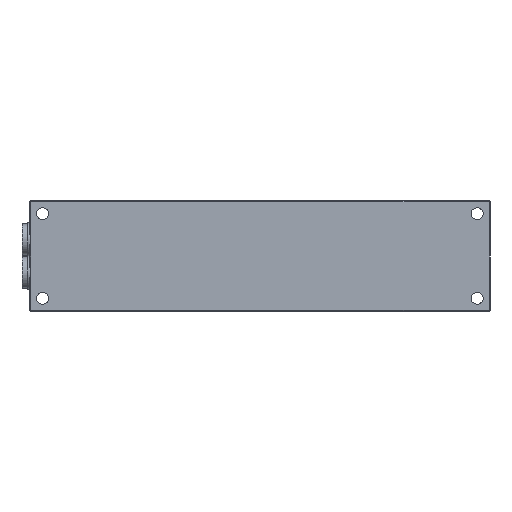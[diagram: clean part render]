
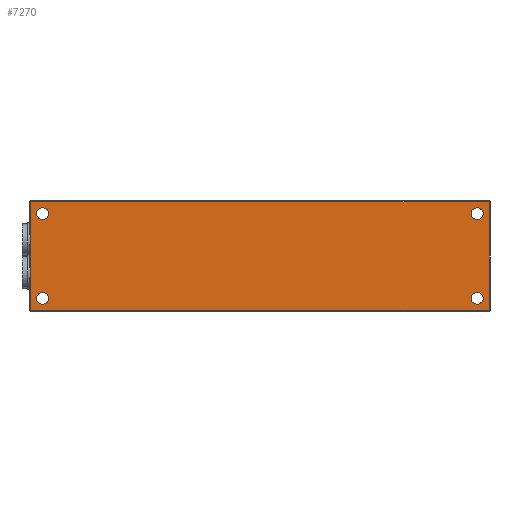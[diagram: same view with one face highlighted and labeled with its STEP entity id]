
A CAD part, front view. The second image highlights one B-rep face of the part: STEP entity #7270.
In plain terms, the highlighted planar face has unit normal (0, -1, 0).
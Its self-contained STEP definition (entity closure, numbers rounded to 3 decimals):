
#125 = CIRCLE ( 'NONE', #13356, 3.25 ) ;
#650 = DIRECTION ( 'NONE',  ( 0., 1., 0. ) ) ;
#804 = DIRECTION ( 'NONE',  ( 0., 1., 0. ) ) ;
#965 = CIRCLE ( 'NONE', #4209, 3.25 ) ;
#974 = CARTESIAN_POINT ( 'NONE',  ( 118., -19., -26.25 ) ) ;
#1879 = DIRECTION ( 'NONE',  ( 0., -1., 0. ) ) ;
#1933 = CIRCLE ( 'NONE', #13622, 3.25 ) ;
#2000 = AXIS2_PLACEMENT_3D ( 'NONE', #9654, #21576, #11353 ) ;
#2174 = EDGE_CURVE ( 'NONE', #3877, #6754, #14236, .T. ) ;
#2457 = LINE ( 'NONE', #5591, #19790 ) ;
#2520 = DIRECTION ( 'NONE',  ( 1., 0., 0. ) ) ;
#2805 = VECTOR ( 'NONE', #13991, 1000. ) ;
#2870 = CIRCLE ( 'NONE', #12645, 3.25 ) ;
#3214 = CARTESIAN_POINT ( 'NONE',  ( 118., -19., 23. ) ) ;
#3272 = FACE_OUTER_BOUND ( 'NONE', #15319, .T. ) ;
#3759 = CARTESIAN_POINT ( 'NONE',  ( -124.5, -19., 29.5 ) ) ;
#3877 = VERTEX_POINT ( 'NONE', #21543 ) ;
#4209 = AXIS2_PLACEMENT_3D ( 'NONE', #3214, #14959, #4785 ) ;
#4234 = VECTOR ( 'NONE', #19734, 1000. ) ;
#4569 = CARTESIAN_POINT ( 'NONE',  ( -118., -19., 19.75 ) ) ;
#4578 = EDGE_CURVE ( 'NONE', #11966, #16246, #965, .T. ) ;
#4785 = DIRECTION ( 'NONE',  ( 0., 0., 1. ) ) ;
#4819 = AXIS2_PLACEMENT_3D ( 'NONE', #11778, #1879, #13492 ) ;
#4821 = VERTEX_POINT ( 'NONE', #21072 ) ;
#4898 = EDGE_CURVE ( 'NONE', #4821, #19384, #7787, .T. ) ;
#5179 = EDGE_CURVE ( 'NONE', #7315, #14709, #2457, .T. ) ;
#5416 = CARTESIAN_POINT ( 'NONE',  ( 124.5, -19., -29.5 ) ) ;
#5490 = CARTESIAN_POINT ( 'NONE',  ( 118., -19., -23. ) ) ;
#5563 = CARTESIAN_POINT ( 'NONE',  ( -125., -19., 29.5 ) ) ;
#5591 = CARTESIAN_POINT ( 'NONE',  ( 125., -19., -29.5 ) ) ;
#5719 = CARTESIAN_POINT ( 'NONE',  ( 118., -19., 19.75 ) ) ;
#5921 = DIRECTION ( 'NONE',  ( 0., 0., -1. ) ) ;
#6041 = AXIS2_PLACEMENT_3D ( 'NONE', #8271, #10139, #10093 ) ;
#6269 = LINE ( 'NONE', #16153, #19360 ) ;
#6308 = CARTESIAN_POINT ( 'NONE',  ( -118., -19., -23. ) ) ;
#6754 = VERTEX_POINT ( 'NONE', #4569 ) ;
#7200 = DIRECTION ( 'NONE',  ( 0., 0., 1. ) ) ;
#7270 = ADVANCED_FACE ( 'NONE', ( #9774, #12711, #21248, #7621, #3272 ), #20209, .T. ) ;
#7315 = VERTEX_POINT ( 'NONE', #10296 ) ;
#7621 = FACE_BOUND ( 'NONE', #9495, .T. ) ;
#7783 = CARTESIAN_POINT ( 'NONE',  ( 124.5, -19., -30. ) ) ;
#7787 = CIRCLE ( 'NONE', #2000, 3.25 ) ;
#7995 = EDGE_LOOP ( 'NONE', ( #18643, #18900 ) ) ;
#8025 = DIRECTION ( 'NONE',  ( 0., 0., 1. ) ) ;
#8138 = LINE ( 'NONE', #7783, #4234 ) ;
#8271 = CARTESIAN_POINT ( 'NONE',  ( -118., -19., 23. ) ) ;
#9495 = EDGE_LOOP ( 'NONE', ( #19358, #19447 ) ) ;
#9564 = CARTESIAN_POINT ( 'NONE',  ( -118., -19., 23. ) ) ;
#9654 = CARTESIAN_POINT ( 'NONE',  ( -118., -19., -23. ) ) ;
#9774 = FACE_BOUND ( 'NONE', #14559, .T. ) ;
#10093 = DIRECTION ( 'NONE',  ( 0., 0., 1. ) ) ;
#10139 = DIRECTION ( 'NONE',  ( 0., 1., 0. ) ) ;
#10257 = VERTEX_POINT ( 'NONE', #3759 ) ;
#10296 = CARTESIAN_POINT ( 'NONE',  ( -124.5, -19., -29.5 ) ) ;
#10502 = CARTESIAN_POINT ( 'NONE',  ( 118., -19., -23. ) ) ;
#10621 = EDGE_LOOP ( 'NONE', ( #18069, #18301 ) ) ;
#10679 = CARTESIAN_POINT ( 'NONE',  ( 118., -19., 23. ) ) ;
#11253 = DIRECTION ( 'NONE',  ( 0., 0., 1. ) ) ;
#11353 = DIRECTION ( 'NONE',  ( 0., 0., 1. ) ) ;
#11778 = CARTESIAN_POINT ( 'NONE',  ( -125., -19., -30. ) ) ;
#11950 = CARTESIAN_POINT ( 'NONE',  ( 118., -19., 26.25 ) ) ;
#11966 = VERTEX_POINT ( 'NONE', #11950 ) ;
#12233 = DIRECTION ( 'NONE',  ( 0., 0., 1. ) ) ;
#12395 = DIRECTION ( 'NONE',  ( 0., 0., 1. ) ) ;
#12645 = AXIS2_PLACEMENT_3D ( 'NONE', #6308, #18244, #8025 ) ;
#12711 = FACE_BOUND ( 'NONE', #10621, .T. ) ;
#12940 = AXIS2_PLACEMENT_3D ( 'NONE', #10502, #650, #12233 ) ;
#13166 = CARTESIAN_POINT ( 'NONE',  ( 124.5, -19., 29.5 ) ) ;
#13356 = AXIS2_PLACEMENT_3D ( 'NONE', #9564, #21484, #11253 ) ;
#13492 = DIRECTION ( 'NONE',  ( 0., 0., -1. ) ) ;
#13588 = CIRCLE ( 'NONE', #12940, 3.25 ) ;
#13622 = AXIS2_PLACEMENT_3D ( 'NONE', #10679, #804, #12395 ) ;
#13991 = DIRECTION ( 'NONE',  ( -1., 0., 0. ) ) ;
#14236 = CIRCLE ( 'NONE', #6041, 3.25 ) ;
#14559 = EDGE_LOOP ( 'NONE', ( #17464, #17561 ) ) ;
#14709 = VERTEX_POINT ( 'NONE', #5416 ) ;
#14714 = EDGE_CURVE ( 'NONE', #17030, #14853, #16930, .T. ) ;
#14740 = EDGE_CURVE ( 'NONE', #18769, #10257, #15642, .T. ) ;
#14853 = VERTEX_POINT ( 'NONE', #974 ) ;
#14931 = EDGE_CURVE ( 'NONE', #10257, #7315, #6269, .T. ) ;
#14959 = DIRECTION ( 'NONE',  ( 0., 1., 0. ) ) ;
#14995 = EDGE_CURVE ( 'NONE', #14709, #18769, #8138, .T. ) ;
#15319 = EDGE_LOOP ( 'NONE', ( #20167, #20240, #20763, #20997 ) ) ;
#15642 = LINE ( 'NONE', #5563, #2805 ) ;
#15789 = AXIS2_PLACEMENT_3D ( 'NONE', #5490, #17419, #7200 ) ;
#16146 = EDGE_CURVE ( 'NONE', #16246, #11966, #1933, .T. ) ;
#16153 = CARTESIAN_POINT ( 'NONE',  ( -124.5, -19., -30. ) ) ;
#16246 = VERTEX_POINT ( 'NONE', #5719 ) ;
#16363 = EDGE_CURVE ( 'NONE', #6754, #3877, #125, .T. ) ;
#16660 = EDGE_CURVE ( 'NONE', #14853, #17030, #13588, .T. ) ;
#16782 = CARTESIAN_POINT ( 'NONE',  ( -118., -19., -26.25 ) ) ;
#16911 = EDGE_CURVE ( 'NONE', #19384, #4821, #2870, .T. ) ;
#16930 = CIRCLE ( 'NONE', #15789, 3.25 ) ;
#17030 = VERTEX_POINT ( 'NONE', #18465 ) ;
#17419 = DIRECTION ( 'NONE',  ( 0., 1., 0. ) ) ;
#17464 = ORIENTED_EDGE ( 'NONE', *, *, #4898, .T. ) ;
#17561 = ORIENTED_EDGE ( 'NONE', *, *, #16911, .T. ) ;
#18069 = ORIENTED_EDGE ( 'NONE', *, *, #2174, .T. ) ;
#18244 = DIRECTION ( 'NONE',  ( 0., 1., 0. ) ) ;
#18301 = ORIENTED_EDGE ( 'NONE', *, *, #16363, .T. ) ;
#18465 = CARTESIAN_POINT ( 'NONE',  ( 118., -19., -19.75 ) ) ;
#18643 = ORIENTED_EDGE ( 'NONE', *, *, #4578, .T. ) ;
#18769 = VERTEX_POINT ( 'NONE', #13166 ) ;
#18900 = ORIENTED_EDGE ( 'NONE', *, *, #16146, .T. ) ;
#19358 = ORIENTED_EDGE ( 'NONE', *, *, #14714, .T. ) ;
#19360 = VECTOR ( 'NONE', #5921, 1000. ) ;
#19384 = VERTEX_POINT ( 'NONE', #16782 ) ;
#19447 = ORIENTED_EDGE ( 'NONE', *, *, #16660, .T. ) ;
#19734 = DIRECTION ( 'NONE',  ( 0., 0., 1. ) ) ;
#19790 = VECTOR ( 'NONE', #2520, 1000. ) ;
#20167 = ORIENTED_EDGE ( 'NONE', *, *, #14740, .T. ) ;
#20209 = PLANE ( 'NONE',  #4819 ) ;
#20240 = ORIENTED_EDGE ( 'NONE', *, *, #14931, .T. ) ;
#20763 = ORIENTED_EDGE ( 'NONE', *, *, #5179, .T. ) ;
#20997 = ORIENTED_EDGE ( 'NONE', *, *, #14995, .T. ) ;
#21072 = CARTESIAN_POINT ( 'NONE',  ( -118., -19., -19.75 ) ) ;
#21248 = FACE_BOUND ( 'NONE', #7995, .T. ) ;
#21484 = DIRECTION ( 'NONE',  ( 0., 1., 0. ) ) ;
#21543 = CARTESIAN_POINT ( 'NONE',  ( -118., -19., 26.25 ) ) ;
#21576 = DIRECTION ( 'NONE',  ( 0., 1., 0. ) ) ;
